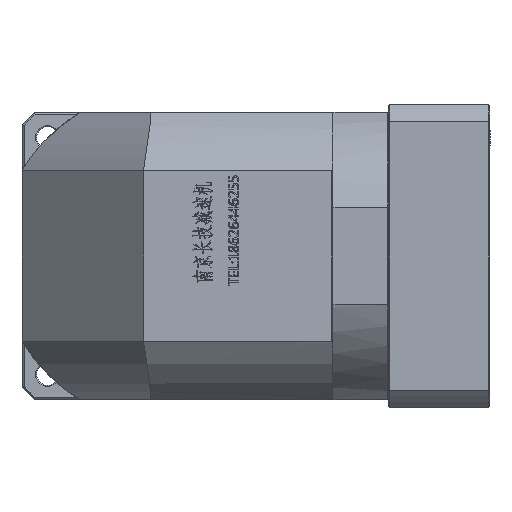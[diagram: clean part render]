
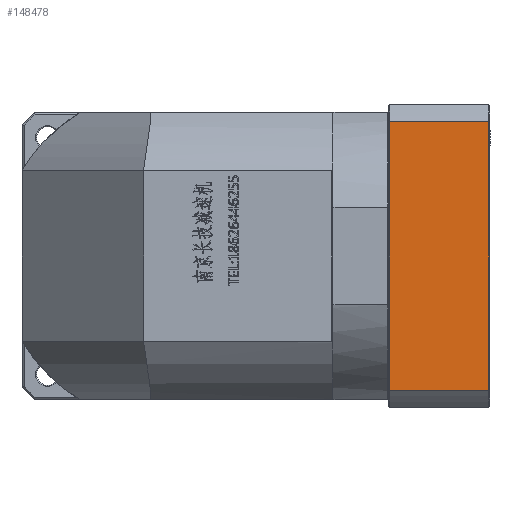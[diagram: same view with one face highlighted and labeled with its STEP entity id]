
A CAD part, left-side view. The second image highlights one B-rep face of the part: STEP entity #148478.
In plain terms, the highlighted planar face has unit normal (-1, 0, 0).
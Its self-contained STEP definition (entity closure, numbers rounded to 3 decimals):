
#1417 = VECTOR ( 'NONE', #142033, 1000. ) ;
#4582 = LINE ( 'NONE', #20705, #36404 ) ;
#6365 = CARTESIAN_POINT ( 'NONE',  ( -89.233, -120.951, 307.704 ) ) ;
#7213 = EDGE_CURVE ( 'NONE', #12762, #151805, #97189, .T. ) ;
#9381 = VERTEX_POINT ( 'NONE', #149875 ) ;
#11263 = CARTESIAN_POINT ( 'NONE',  ( -89.233, -170.451, 166.56 ) ) ;
#12762 = VERTEX_POINT ( 'NONE', #6365 ) ;
#13655 = ORIENTED_EDGE ( 'NONE', *, *, #153735, .F. ) ;
#20202 = EDGE_CURVE ( 'NONE', #162952, #9381, #4582, .T. ) ;
#20705 = CARTESIAN_POINT ( 'NONE',  ( -89.233, 165.22, 175.416 ) ) ;
#24954 = DIRECTION ( 'NONE',  ( 1., 0., 0. ) ) ;
#25536 = PLANE ( 'NONE',  #147496 ) ;
#28096 = EDGE_LOOP ( 'NONE', ( #28449, #58026, #66424, #13655 ) ) ;
#28449 = ORIENTED_EDGE ( 'NONE', *, *, #7213, .F. ) ;
#29471 = CARTESIAN_POINT ( 'NONE',  ( -89.233, -169.951, 175.416 ) ) ;
#36404 = VECTOR ( 'NONE', #89323, 1000. ) ;
#43799 = FACE_OUTER_BOUND ( 'NONE', #28096, .T. ) ;
#46069 = LINE ( 'NONE', #46520, #1417 ) ;
#46520 = CARTESIAN_POINT ( 'NONE',  ( -89.233, -120.951, 166.56 ) ) ;
#49089 = LINE ( 'NONE', #60088, #144904 ) ;
#58026 = ORIENTED_EDGE ( 'NONE', *, *, #126086, .T. ) ;
#58343 = DIRECTION ( 'NONE',  ( 0., 0., -1. ) ) ;
#60088 = CARTESIAN_POINT ( 'NONE',  ( -89.233, -169.951, 166.56 ) ) ;
#60850 = VECTOR ( 'NONE', #73658, 1000. ) ;
#66424 = ORIENTED_EDGE ( 'NONE', *, *, #20202, .F. ) ;
#73658 = DIRECTION ( 'NONE',  ( 0., -1., 0. ) ) ;
#78269 = CARTESIAN_POINT ( 'NONE',  ( -89.233, -169.951, 307.704 ) ) ;
#89323 = DIRECTION ( 'NONE',  ( 0., 1., 0. ) ) ;
#97189 = LINE ( 'NONE', #156426, #60850 ) ;
#126086 = EDGE_CURVE ( 'NONE', #12762, #9381, #46069, .T. ) ;
#142033 = DIRECTION ( 'NONE',  ( 0., 0., -1. ) ) ;
#144904 = VECTOR ( 'NONE', #58343, 1000. ) ;
#147496 = AXIS2_PLACEMENT_3D ( 'NONE', #11263, #24954, #172957 ) ;
#148478 = ADVANCED_FACE ( 'NONE', ( #43799 ), #25536, .F. ) ;
#149875 = CARTESIAN_POINT ( 'NONE',  ( -89.233, -120.951, 175.416 ) ) ;
#151805 = VERTEX_POINT ( 'NONE', #78269 ) ;
#153735 = EDGE_CURVE ( 'NONE', #151805, #162952, #49089, .T. ) ;
#156426 = CARTESIAN_POINT ( 'NONE',  ( -89.233, -170.451, 307.704 ) ) ;
#162952 = VERTEX_POINT ( 'NONE', #29471 ) ;
#172957 = DIRECTION ( 'NONE',  ( 0., 1., 0. ) ) ;
